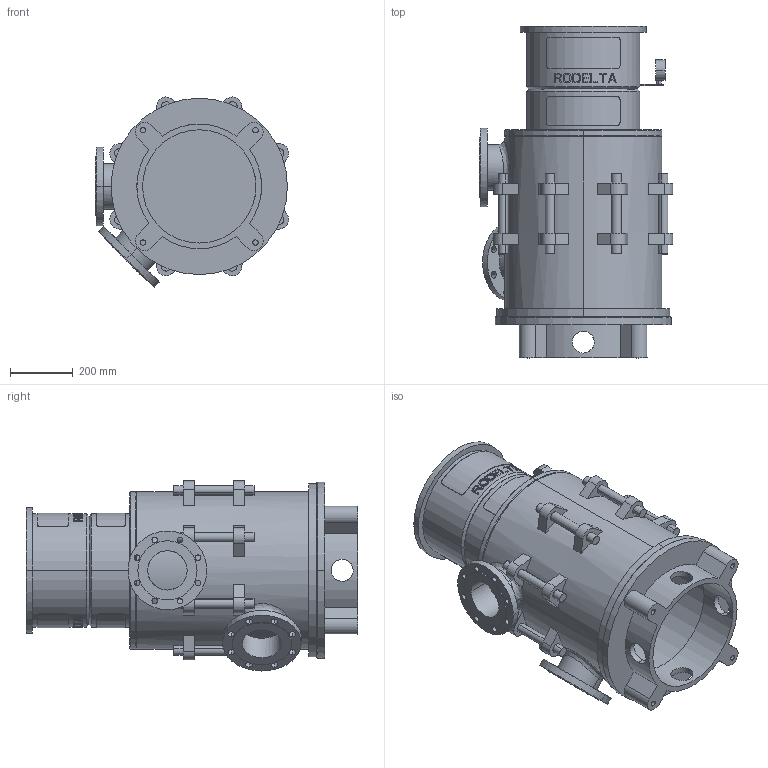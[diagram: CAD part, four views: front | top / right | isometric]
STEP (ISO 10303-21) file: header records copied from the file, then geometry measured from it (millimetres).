
FILE_DESCRIPTION((''),'2;1');
FILE_NAME('LS5_2TR_0GR_TOT_30KW','2023-08-08T',('Lyritlocal'),(''),'PRO/ENGINEER BY PARAMETRIC TECHNOLOGY CORPORATION, 2016360','PRO/ENGINEER BY PARAMETRIC TECHNOLOGY CORPORATION, 2016360','');
FILE_SCHEMA(('CONFIG_CONTROL_DESIGN'));
Length unit declared in the file: millimetre
Products named in the file (1): LS5_2TR_0GR_TOT_30KW
Bounding box: 614.04 x 1054 x 603.65 mm (x, y, z)
Volume: 32300357.5 mm3; surface area: 4434262 mm2
Topology: 3 solids, 7 shells, 672 faces, 1747 edges, 1158 vertices
Faces by surface type: plane 414, cylinder 242, cone 12, bspline 4
Entity records: 21948 total; most frequent: CARTESIAN_POINT 5504, ORIENTED_EDGE 3478, DIRECTION 3269, EDGE_CURVE 1747, AXIS2_PLACEMENT_3D 1241, VERTEX_POINT 1158, EDGE_LOOP 809, VECTOR 787
